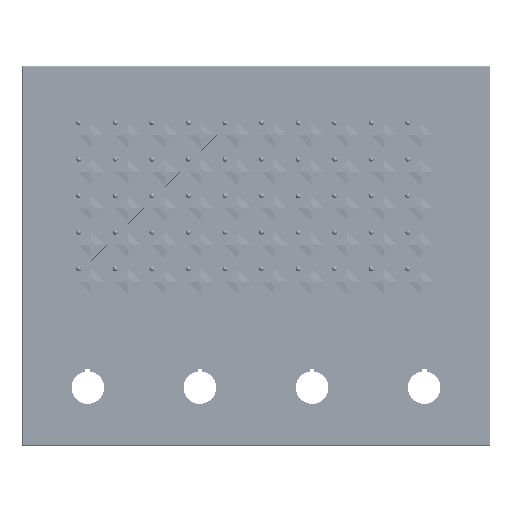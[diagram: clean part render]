
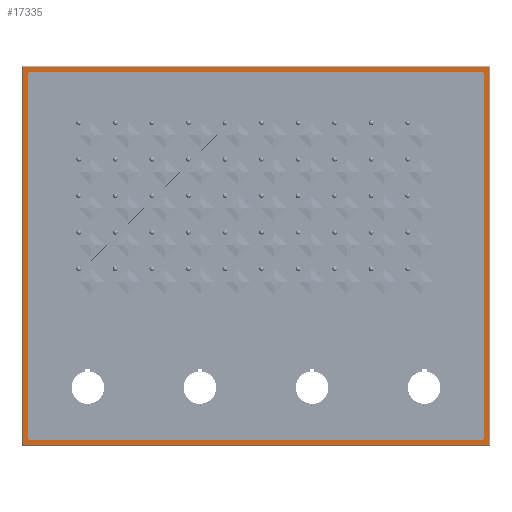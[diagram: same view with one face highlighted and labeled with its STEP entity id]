
A CAD part, top view. The second image highlights one B-rep face of the part: STEP entity #17335.
In plain terms, the highlighted planar face has unit normal (0, 0, 1).
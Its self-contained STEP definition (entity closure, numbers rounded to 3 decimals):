
#324 = DIRECTION ( 'NONE',  ( -1., 0., 0. ) ) ;
#383 = CARTESIAN_POINT ( 'NONE',  ( 319., 259., 5. ) ) ;
#1737 = LINE ( 'NONE', #41597, #55373 ) ;
#2120 = DIRECTION ( 'NONE',  ( 0., -1., 0. ) ) ;
#3441 = EDGE_CURVE ( 'NONE', #46360, #32861, #1737, .T. ) ;
#6091 = CARTESIAN_POINT ( 'NONE',  ( 314., 4., 5. ) ) ;
#6151 = EDGE_CURVE ( 'NONE', #24989, #9259, #82156, .T. ) ;
#6744 = EDGE_CURVE ( 'NONE', #20996, #12383, #90644, .T. ) ;
#6748 = ORIENTED_EDGE ( 'NONE', *, *, #6151, .T. ) ;
#7134 = CARTESIAN_POINT ( 'NONE',  ( 316., 256., 5. ) ) ;
#7651 = DIRECTION ( 'NONE',  ( 0., 1., 0. ) ) ;
#8149 = EDGE_LOOP ( 'NONE', ( #77424, #84728, #47492, #6748, #81082, #50079, #46520, #66496 ) ) ;
#8843 = ORIENTED_EDGE ( 'NONE', *, *, #42485, .T. ) ;
#9259 = VERTEX_POINT ( 'NONE', #78371 ) ;
#9734 = DIRECTION ( 'NONE',  ( -1., 0., 0. ) ) ;
#11820 = CARTESIAN_POINT ( 'NONE',  ( 6., 254., 5. ) ) ;
#12383 = VERTEX_POINT ( 'NONE', #37124 ) ;
#13795 = VECTOR ( 'NONE', #39554, 1000. ) ;
#17335 = ADVANCED_FACE ( 'NONE', ( #69716, #65285 ), #44678, .F. ) ;
#18064 = DIRECTION ( 'NONE',  ( 0., 0., -1. ) ) ;
#18335 = VERTEX_POINT ( 'NONE', #63424 ) ;
#18929 = DIRECTION ( 'NONE',  ( -1., 0., 0. ) ) ;
#20396 = ORIENTED_EDGE ( 'NONE', *, *, #50084, .T. ) ;
#20996 = VERTEX_POINT ( 'NONE', #36656 ) ;
#24092 = CARTESIAN_POINT ( 'NONE',  ( 314., 256., 5. ) ) ;
#24311 = VERTEX_POINT ( 'NONE', #6091 ) ;
#24989 = VERTEX_POINT ( 'NONE', #34790 ) ;
#26058 = VERTEX_POINT ( 'NONE', #33811 ) ;
#26974 = EDGE_CURVE ( 'NONE', #24989, #12383, #79560, .T. ) ;
#27451 = DIRECTION ( 'NONE',  ( 0., -1., 0. ) ) ;
#27775 = VECTOR ( 'NONE', #56117, 1000. ) ;
#27908 = EDGE_CURVE ( 'NONE', #45952, #18335, #48640, .T. ) ;
#28461 = LINE ( 'NONE', #30123, #82115 ) ;
#29391 = EDGE_CURVE ( 'NONE', #45952, #24311, #68126, .T. ) ;
#30123 = CARTESIAN_POINT ( 'NONE',  ( 4., 4., 5. ) ) ;
#30420 = DIRECTION ( 'NONE',  ( 1., 0., 0. ) ) ;
#30573 = CARTESIAN_POINT ( 'NONE',  ( 0., 260., 5. ) ) ;
#32006 = VECTOR ( 'NONE', #46071, 1000. ) ;
#32389 = ORIENTED_EDGE ( 'NONE', *, *, #56959, .T. ) ;
#32861 = VERTEX_POINT ( 'NONE', #38055 ) ;
#33811 = CARTESIAN_POINT ( 'NONE',  ( 319., 1., 5. ) ) ;
#34790 = CARTESIAN_POINT ( 'NONE',  ( 4., 254., 5. ) ) ;
#35829 = EDGE_CURVE ( 'NONE', #49458, #9259, #69522, .T. ) ;
#36283 = CARTESIAN_POINT ( 'NONE',  ( 316., 6., 5. ) ) ;
#36656 = CARTESIAN_POINT ( 'NONE',  ( 6., 4., 5. ) ) ;
#37124 = CARTESIAN_POINT ( 'NONE',  ( 4., 6., 5. ) ) ;
#38055 = CARTESIAN_POINT ( 'NONE',  ( 1., 1., 5. ) ) ;
#39554 = DIRECTION ( 'NONE',  ( 1., 0., 0. ) ) ;
#40885 = CARTESIAN_POINT ( 'NONE',  ( 6., 6., 5. ) ) ;
#41597 = CARTESIAN_POINT ( 'NONE',  ( 1., 260., 5. ) ) ;
#42306 = DIRECTION ( 'NONE',  ( 0., 0., -1. ) ) ;
#42485 = EDGE_CURVE ( 'NONE', #32861, #26058, #86032, .T. ) ;
#43622 = CIRCLE ( 'NONE', #69619, 2. ) ;
#44078 = CARTESIAN_POINT ( 'NONE',  ( 4., 256., 5. ) ) ;
#44678 = PLANE ( 'NONE',  #74314 ) ;
#44992 = DIRECTION ( 'NONE',  ( -1., 0., 0. ) ) ;
#45952 = VERTEX_POINT ( 'NONE', #36283 ) ;
#46071 = DIRECTION ( 'NONE',  ( -1., 0., 0. ) ) ;
#46360 = VERTEX_POINT ( 'NONE', #49084 ) ;
#46520 = ORIENTED_EDGE ( 'NONE', *, *, #27908, .F. ) ;
#47492 = ORIENTED_EDGE ( 'NONE', *, *, #26974, .F. ) ;
#47893 = DIRECTION ( 'NONE',  ( -1., 0., 0. ) ) ;
#48640 = LINE ( 'NONE', #7134, #27775 ) ;
#49084 = CARTESIAN_POINT ( 'NONE',  ( 1., 259., 5. ) ) ;
#49458 = VERTEX_POINT ( 'NONE', #24092 ) ;
#50079 = ORIENTED_EDGE ( 'NONE', *, *, #57266, .T. ) ;
#50084 = EDGE_CURVE ( 'NONE', #90679, #46360, #50602, .T. ) ;
#50602 = LINE ( 'NONE', #73906, #32006 ) ;
#51668 = DIRECTION ( 'NONE',  ( 0., 0., -1. ) ) ;
#55373 = VECTOR ( 'NONE', #27451, 1000. ) ;
#56117 = DIRECTION ( 'NONE',  ( 0., 1., 0. ) ) ;
#56634 = CARTESIAN_POINT ( 'NONE',  ( 319., 260., 5. ) ) ;
#56717 = ORIENTED_EDGE ( 'NONE', *, *, #3441, .T. ) ;
#56959 = EDGE_CURVE ( 'NONE', #26058, #90679, #67680, .T. ) ;
#57266 = EDGE_CURVE ( 'NONE', #49458, #18335, #43622, .T. ) ;
#59936 = CARTESIAN_POINT ( 'NONE',  ( 314., 254., 5. ) ) ;
#60777 = DIRECTION ( 'NONE',  ( 0., 0., -1. ) ) ;
#63093 = VECTOR ( 'NONE', #2120, 1000. ) ;
#63424 = CARTESIAN_POINT ( 'NONE',  ( 316., 254., 5. ) ) ;
#64608 = AXIS2_PLACEMENT_3D ( 'NONE', #11820, #60777, #18929 ) ;
#65285 = FACE_BOUND ( 'NONE', #8149, .T. ) ;
#66096 = EDGE_CURVE ( 'NONE', #20996, #24311, #28461, .T. ) ;
#66496 = ORIENTED_EDGE ( 'NONE', *, *, #29391, .T. ) ;
#66965 = DIRECTION ( 'NONE',  ( -1., 0., 0. ) ) ;
#67642 = CARTESIAN_POINT ( 'NONE',  ( 0., 1., 5. ) ) ;
#67680 = LINE ( 'NONE', #56634, #69922 ) ;
#68126 = CIRCLE ( 'NONE', #83276, 2. ) ;
#69522 = LINE ( 'NONE', #79873, #88090 ) ;
#69619 = AXIS2_PLACEMENT_3D ( 'NONE', #59936, #18064, #66965 ) ;
#69716 = FACE_OUTER_BOUND ( 'NONE', #73160, .T. ) ;
#69922 = VECTOR ( 'NONE', #7651, 1000. ) ;
#70515 = AXIS2_PLACEMENT_3D ( 'NONE', #40885, #89763, #47893 ) ;
#73160 = EDGE_LOOP ( 'NONE', ( #56717, #8843, #32389, #20396 ) ) ;
#73906 = CARTESIAN_POINT ( 'NONE',  ( 0., 259., 5. ) ) ;
#74314 = AXIS2_PLACEMENT_3D ( 'NONE', #30573, #51668, #9734 ) ;
#77424 = ORIENTED_EDGE ( 'NONE', *, *, #66096, .F. ) ;
#78371 = CARTESIAN_POINT ( 'NONE',  ( 6., 256., 5. ) ) ;
#79560 = LINE ( 'NONE', #44078, #63093 ) ;
#79873 = CARTESIAN_POINT ( 'NONE',  ( 4., 256., 5. ) ) ;
#81082 = ORIENTED_EDGE ( 'NONE', *, *, #35829, .F. ) ;
#82115 = VECTOR ( 'NONE', #30420, 1000. ) ;
#82156 = CIRCLE ( 'NONE', #64608, 2. ) ;
#83276 = AXIS2_PLACEMENT_3D ( 'NONE', #84167, #42306, #324 ) ;
#84167 = CARTESIAN_POINT ( 'NONE',  ( 314., 6., 5. ) ) ;
#84728 = ORIENTED_EDGE ( 'NONE', *, *, #6744, .T. ) ;
#86032 = LINE ( 'NONE', #67642, #13795 ) ;
#88090 = VECTOR ( 'NONE', #44992, 1000. ) ;
#89763 = DIRECTION ( 'NONE',  ( 0., 0., -1. ) ) ;
#90644 = CIRCLE ( 'NONE', #70515, 2. ) ;
#90679 = VERTEX_POINT ( 'NONE', #383 ) ;
